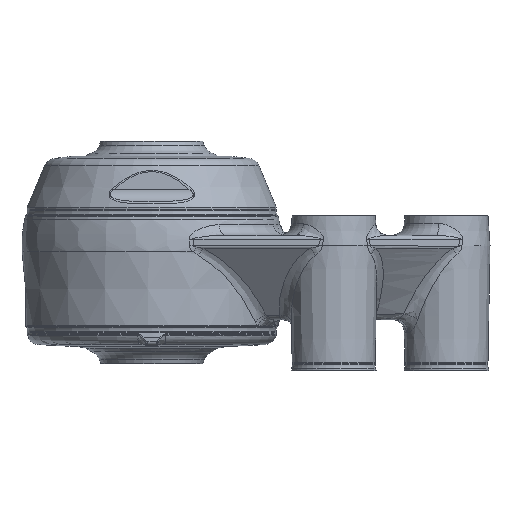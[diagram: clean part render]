
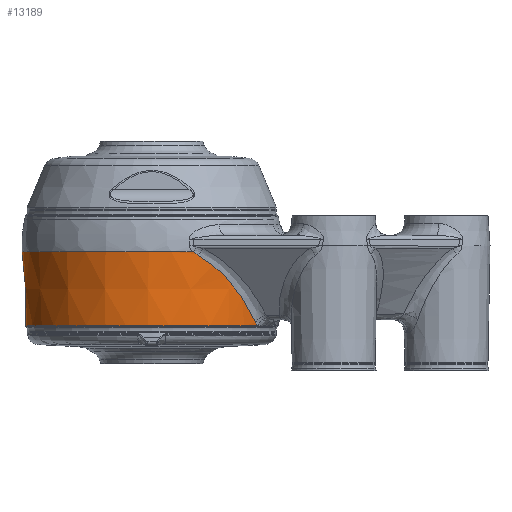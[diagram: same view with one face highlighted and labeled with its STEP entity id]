
A CAD part, left-side view. The second image highlights one B-rep face of the part: STEP entity #13189.
In plain terms, the highlighted conical face has half-angle 2.646 degrees and reference radius 33 mm.
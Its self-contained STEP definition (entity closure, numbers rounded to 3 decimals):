
#419 = CARTESIAN_POINT ( 'NONE',  ( -17.471, -26.74, -13.9 ) ) ;
#484 = CIRCLE ( 'NONE', #3714, 32.807 ) ;
#1166 = VERTEX_POINT ( 'NONE', #4339 ) ;
#1215 = CONICAL_SURFACE ( 'NONE', #27314, 33., 0.046 ) ;
#1564 = CARTESIAN_POINT ( 'NONE',  ( 0., 31.942, -13.9 ) ) ;
#1676 = VERTEX_POINT ( 'NONE', #11130 ) ;
#1965 = CARTESIAN_POINT ( 'NONE',  ( 27.095, -18.111, -0.873 ) ) ;
#2175 = CARTESIAN_POINT ( 'NONE',  ( -23.98, -21.766, -5.142 ) ) ;
#2254 = CARTESIAN_POINT ( 'NONE',  ( 30.566, -11.798, 3.878 ) ) ;
#2264 = CARTESIAN_POINT ( 'NONE',  ( -30.93, -10.89, 4.466 ) ) ;
#2683 = B_SPLINE_CURVE_WITH_KNOTS ( 'NONE', 3,
 ( #12620, #7668, #25592, #7994, #13281, #2254 ),
 .UNSPECIFIED., .F., .F.,
 ( 4, 2, 4 ),
 ( 0., 0.001, 0.002 ),
 .UNSPECIFIED. ) ;
#3562 = DIRECTION ( 'NONE',  ( 0., 1., 0. ) ) ;
#3714 = AXIS2_PLACEMENT_3D ( 'NONE', #12787, #5626, #18069 ) ;
#4339 = CARTESIAN_POINT ( 'NONE',  ( -17.471, -26.74, -13.9 ) ) ;
#4343 = CARTESIAN_POINT ( 'NONE',  ( 23.98, -21.766, -5.142 ) ) ;
#4617 = VERTEX_POINT ( 'NONE', #5228 ) ;
#4650 = ORIENTED_EDGE ( 'NONE', *, *, #14622, .T. ) ;
#4712 = CARTESIAN_POINT ( 'NONE',  ( -22.877, -22.818, -6.655 ) ) ;
#4832 = CARTESIAN_POINT ( 'NONE',  ( 19.417, -25.546, -11.402 ) ) ;
#4855 = CIRCLE ( 'NONE', #5388, 32.807 ) ;
#4997 = ORIENTED_EDGE ( 'NONE', *, *, #24998, .T. ) ;
#5086 = CARTESIAN_POINT ( 'NONE',  ( 17.993, -26.424, -13.359 ) ) ;
#5228 = CARTESIAN_POINT ( 'NONE',  ( -31.089, -10.477, 4.828 ) ) ;
#5384 = AXIS2_PLACEMENT_3D ( 'NONE', #6117, #26919, #3562 ) ;
#5388 = AXIS2_PLACEMENT_3D ( 'NONE', #11291, #30068, #21702 ) ;
#5399 = VERTEX_POINT ( 'NONE', #7814 ) ;
#5626 = DIRECTION ( 'NONE',  ( 0., 0., -1. ) ) ;
#5636 = DIRECTION ( 'NONE',  ( 0., 1., 0. ) ) ;
#5921 = CIRCLE ( 'NONE', #5384, 31.942 ) ;
#6117 = CARTESIAN_POINT ( 'NONE',  ( 0., 0., -13.9 ) ) ;
#6290 = VERTEX_POINT ( 'NONE', #18260 ) ;
#6336 = CARTESIAN_POINT ( 'NONE',  ( -18.222, -26.282, -13.044 ) ) ;
#6882 = CARTESIAN_POINT ( 'NONE',  ( 18.222, -26.282, -13.044 ) ) ;
#7206 = CARTESIAN_POINT ( 'NONE',  ( 20.589, -24.713, -9.793 ) ) ;
#7373 = CARTESIAN_POINT ( 'NONE',  ( 28.976, -15.175, 1.703 ) ) ;
#7419 = CARTESIAN_POINT ( 'NONE',  ( -27.095, -18.111, -0.873 ) ) ;
#7668 = CARTESIAN_POINT ( 'NONE',  ( 31.013, -10.676, 4.636 ) ) ;
#7814 = CARTESIAN_POINT ( 'NONE',  ( -30.566, -11.798, 3.878 ) ) ;
#7994 = CARTESIAN_POINT ( 'NONE',  ( 30.755, -11.334, 4.154 ) ) ;
#8249 = EDGE_CURVE ( 'NONE', #1166, #31614, #33400, .T. ) ;
#8654 = AXIS2_PLACEMENT_3D ( 'NONE', #23701, #18593, #5636 ) ;
#10877 = ORIENTED_EDGE ( 'NONE', *, *, #16397, .T. ) ;
#11085 = EDGE_CURVE ( 'NONE', #26107, #24269, #13267, .T. ) ;
#11130 = CARTESIAN_POINT ( 'NONE',  ( 17.471, -26.74, -13.9 ) ) ;
#11291 = CARTESIAN_POINT ( 'NONE',  ( 0., 0., 4.828 ) ) ;
#12162 = CARTESIAN_POINT ( 'NONE',  ( 29.83, -13.574, 2.872 ) ) ;
#12323 = CARTESIAN_POINT ( 'NONE',  ( 26.089, -19.412, -2.251 ) ) ;
#12415 = CARTESIAN_POINT ( 'NONE',  ( 17.742, -26.577, -13.643 ) ) ;
#12620 = CARTESIAN_POINT ( 'NONE',  ( 31.089, -10.477, 4.828 ) ) ;
#12787 = CARTESIAN_POINT ( 'NONE',  ( 0., 0., 4.828 ) ) ;
#13189 = ADVANCED_FACE ( 'NONE', ( #24890 ), #1215, .T. ) ;
#13267 = B_SPLINE_CURVE_WITH_KNOTS ( 'NONE', 3,
 ( #19682, #12162, #7373, #1965, #12323, #4343, #17605, #7206, #4832, #6882 ),
 .UNSPECIFIED., .F., .F.,
 ( 4, 2, 2, 2, 4 ),
 ( 0., 0.006, 0.013, 0.019, 0.026 ),
 .UNSPECIFIED. ) ;
#13281 = CARTESIAN_POINT ( 'NONE',  ( 30.663, -11.563, 4.011 ) ) ;
#13904 = B_SPLINE_CURVE_WITH_KNOTS ( 'NONE', 3,
 ( #20383, #33339, #28060, #4712, #2175, #17993, #7419, #28562, #15427, #28231 ),
 .UNSPECIFIED., .F., .F.,
 ( 4, 2, 2, 2, 4 ),
 ( 0., 0.006, 0.013, 0.019, 0.026 ),
 .UNSPECIFIED. ) ;
#14622 = EDGE_CURVE ( 'NONE', #16352, #6290, #484, .T. ) ;
#14715 = B_SPLINE_CURVE_WITH_KNOTS ( 'NONE', 3,
 ( #27832, #30384, #17745, #2264, #28150, #22705 ),
 .UNSPECIFIED., .F., .F.,
 ( 4, 2, 4 ),
 ( 0., 0.001, 0.002 ),
 .UNSPECIFIED. ) ;
#14829 = EDGE_CURVE ( 'NONE', #31614, #5399, #13904, .T. ) ;
#14972 = CARTESIAN_POINT ( 'NONE',  ( 17.471, -26.74, -13.9 ) ) ;
#15427 = CARTESIAN_POINT ( 'NONE',  ( -29.83, -13.574, 2.872 ) ) ;
#15451 = EDGE_CURVE ( 'NONE', #5399, #4617, #14715, .T. ) ;
#16050 = ORIENTED_EDGE ( 'NONE', *, *, #18693, .T. ) ;
#16352 = VERTEX_POINT ( 'NONE', #29893 ) ;
#16397 = EDGE_CURVE ( 'NONE', #4617, #16352, #4855, .T. ) ;
#17605 = CARTESIAN_POINT ( 'NONE',  ( 22.877, -22.818, -6.655 ) ) ;
#17745 = CARTESIAN_POINT ( 'NONE',  ( -30.755, -11.334, 4.154 ) ) ;
#17993 = CARTESIAN_POINT ( 'NONE',  ( -26.089, -19.412, -2.251 ) ) ;
#18069 = DIRECTION ( 'NONE',  ( 0., 1., 0. ) ) ;
#18260 = CARTESIAN_POINT ( 'NONE',  ( 31.089, -10.477, 4.828 ) ) ;
#18593 = DIRECTION ( 'NONE',  ( 0., 0., 1. ) ) ;
#18693 = EDGE_CURVE ( 'NONE', #1676, #20531, #5921, .T. ) ;
#18709 = CARTESIAN_POINT ( 'NONE',  ( 18.222, -26.282, -13.044 ) ) ;
#19114 = ORIENTED_EDGE ( 'NONE', *, *, #22948, .T. ) ;
#19682 = CARTESIAN_POINT ( 'NONE',  ( 30.566, -11.798, 3.878 ) ) ;
#19761 = DIRECTION ( 'NONE',  ( 0., 0., 1. ) ) ;
#20383 = CARTESIAN_POINT ( 'NONE',  ( -18.222, -26.282, -13.044 ) ) ;
#20531 = VERTEX_POINT ( 'NONE', #1564 ) ;
#21702 = DIRECTION ( 'NONE',  ( 0., 1., 0. ) ) ;
#22489 = CARTESIAN_POINT ( 'NONE',  ( 0., 0., 9. ) ) ;
#22705 = CARTESIAN_POINT ( 'NONE',  ( -31.089, -10.477, 4.828 ) ) ;
#22948 = EDGE_CURVE ( 'NONE', #6290, #26107, #2683, .T. ) ;
#23359 = CIRCLE ( 'NONE', #8654, 31.942 ) ;
#23701 = CARTESIAN_POINT ( 'NONE',  ( 0., 0., -13.9 ) ) ;
#24269 = VERTEX_POINT ( 'NONE', #18709 ) ;
#24890 = FACE_OUTER_BOUND ( 'NONE', #24927, .T. ) ;
#24927 = EDGE_LOOP ( 'NONE', ( #16050, #32800, #29386, #30691, #33604, #10877, #4650, #19114, #26999, #4997 ) ) ;
#24998 = EDGE_CURVE ( 'NONE', #24269, #1676, #26517, .T. ) ;
#25073 = CARTESIAN_POINT ( 'NONE',  ( 18.222, -26.282, -13.044 ) ) ;
#25592 = CARTESIAN_POINT ( 'NONE',  ( 30.93, -10.89, 4.466 ) ) ;
#26057 = CARTESIAN_POINT ( 'NONE',  ( 30.566, -11.798, 3.878 ) ) ;
#26107 = VERTEX_POINT ( 'NONE', #26057 ) ;
#26517 = B_SPLINE_CURVE_WITH_KNOTS ( 'NONE', 3,
 ( #25073, #5086, #12415, #14972 ),
 .UNSPECIFIED., .F., .F.,
 ( 4, 4 ),
 ( 0., 0.001 ),
 .UNSPECIFIED. ) ;
#26919 = DIRECTION ( 'NONE',  ( 0., 0., 1. ) ) ;
#26999 = ORIENTED_EDGE ( 'NONE', *, *, #11085, .T. ) ;
#27272 = DIRECTION ( 'NONE',  ( 0., -1., 0. ) ) ;
#27314 = AXIS2_PLACEMENT_3D ( 'NONE', #22489, #19761, #27272 ) ;
#27832 = CARTESIAN_POINT ( 'NONE',  ( -30.566, -11.798, 3.878 ) ) ;
#28060 = CARTESIAN_POINT ( 'NONE',  ( -20.589, -24.713, -9.793 ) ) ;
#28150 = CARTESIAN_POINT ( 'NONE',  ( -31.013, -10.676, 4.636 ) ) ;
#28231 = CARTESIAN_POINT ( 'NONE',  ( -30.566, -11.798, 3.878 ) ) ;
#28562 = CARTESIAN_POINT ( 'NONE',  ( -28.976, -15.174, 1.704 ) ) ;
#29019 = CARTESIAN_POINT ( 'NONE',  ( -17.742, -26.577, -13.643 ) ) ;
#29186 = CARTESIAN_POINT ( 'NONE',  ( -17.995, -26.422, -13.356 ) ) ;
#29386 = ORIENTED_EDGE ( 'NONE', *, *, #8249, .T. ) ;
#29893 = CARTESIAN_POINT ( 'NONE',  ( 0., 32.807, 4.828 ) ) ;
#30068 = DIRECTION ( 'NONE',  ( 0., 0., -1. ) ) ;
#30382 = EDGE_CURVE ( 'NONE', #20531, #1166, #23359, .T. ) ;
#30384 = CARTESIAN_POINT ( 'NONE',  ( -30.663, -11.563, 4.011 ) ) ;
#30691 = ORIENTED_EDGE ( 'NONE', *, *, #14829, .T. ) ;
#31614 = VERTEX_POINT ( 'NONE', #32792 ) ;
#32792 = CARTESIAN_POINT ( 'NONE',  ( -18.222, -26.282, -13.044 ) ) ;
#32800 = ORIENTED_EDGE ( 'NONE', *, *, #30382, .T. ) ;
#33339 = CARTESIAN_POINT ( 'NONE',  ( -19.417, -25.546, -11.402 ) ) ;
#33400 = B_SPLINE_CURVE_WITH_KNOTS ( 'NONE', 3,
 ( #419, #29019, #29186, #6336 ),
 .UNSPECIFIED., .F., .F.,
 ( 4, 4 ),
 ( 0.005, 0.006 ),
 .UNSPECIFIED. ) ;
#33604 = ORIENTED_EDGE ( 'NONE', *, *, #15451, .T. ) ;
